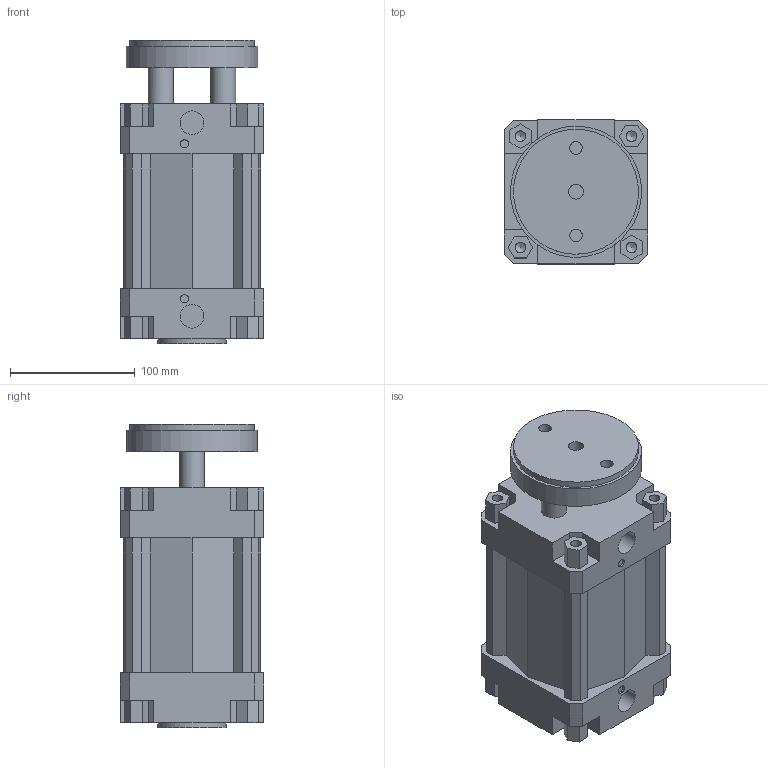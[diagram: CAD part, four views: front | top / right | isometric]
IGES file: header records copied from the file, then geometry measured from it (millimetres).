
Global section: file name: 132#_100_0050_01; native system: Autodesk Inventor 2014; preprocessor: unknown; author: A. Manieri; date: 20161006.163613; units: millimetre
Bounding box: 115 x 115 x 243 mm (x, y, z)
Volume: 1932862.8 mm3; surface area: 258992.2 mm2
Topology: 2 solids, 2 shells, 180 faces, 491 edges, 335 vertices
Faces by surface type: bspline 180
